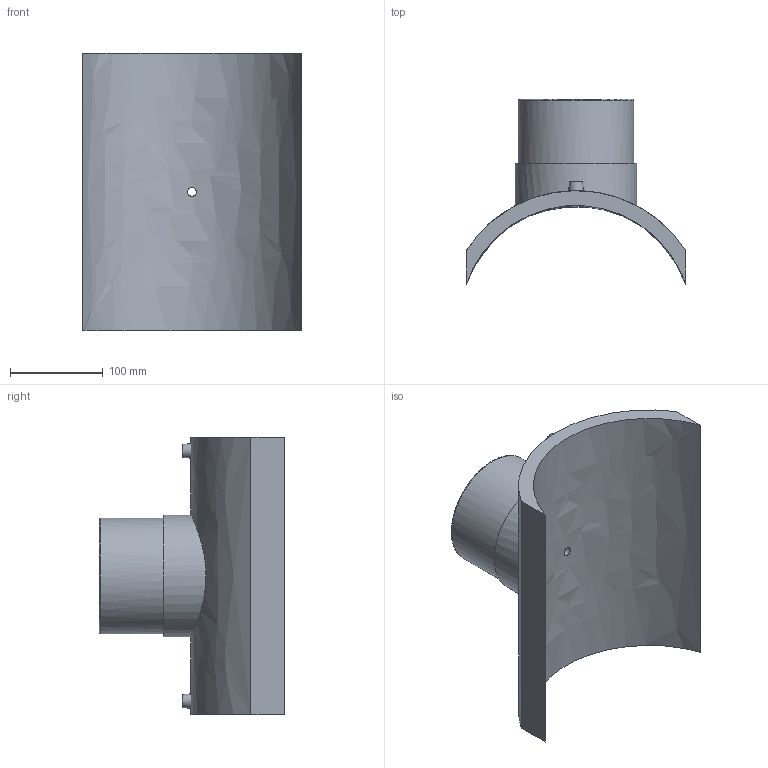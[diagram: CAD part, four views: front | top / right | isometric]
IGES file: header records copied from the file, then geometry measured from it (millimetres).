
Global section: file name: 495803250125T; native system: Autodesk Inventor 2019; preprocessor: unknown; author: KIM; date: 20240404.114823; units: millimetre
Bounding box: 237 x 200.22 x 300 mm (x, y, z)
Volume: 1927306.5 mm3; surface area: 290409.8 mm2
Topology: 1 solids, 1 shells, 29 faces, 60 edges, 43 vertices
Faces by surface type: bspline 29
